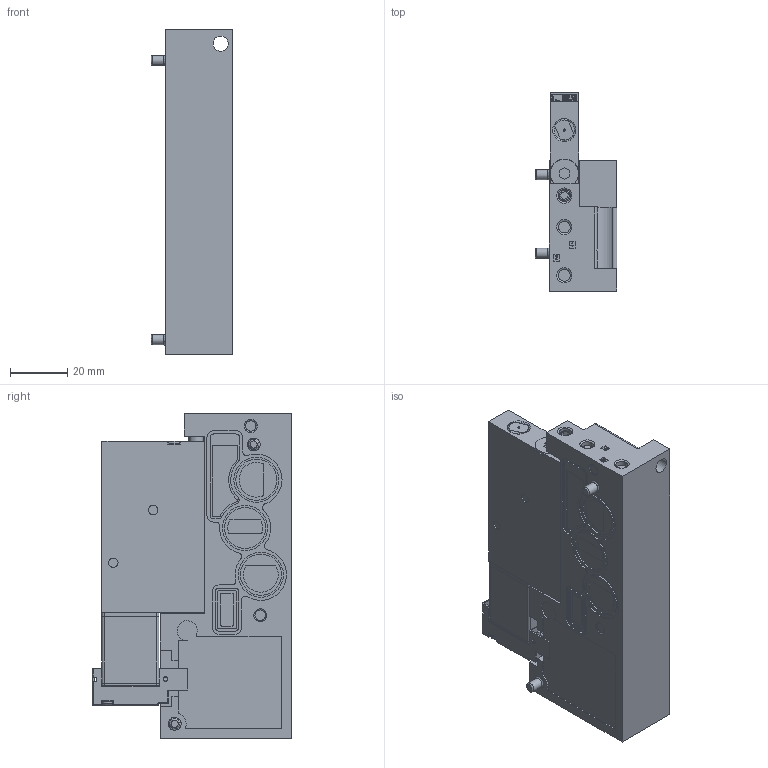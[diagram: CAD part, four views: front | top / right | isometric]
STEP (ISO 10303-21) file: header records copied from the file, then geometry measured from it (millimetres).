
FILE_DESCRIPTION (( 'STEP AP214' ), '1' );
FILE_NAME ('42 SGL END.STEP', '2019-09-16T18:13:34', ( 'user' ), ( '' ), 'SwSTEP 2.0', 'SolidWorks 2014', '' );
FILE_SCHEMA (( 'AUTOMOTIVE_DESIGN' ));
Length unit declared in the file: millimetre
Products named in the file (3): 42A-000-BL1(SC); 42A-AMA-000-GXXP-1DA(SC); 42 SGL END
Assembly tree (2 placements, depth 2):
  42 SGL END
    42A-AMA-000-GXXP-1DA(SC)
    42A-000-BL1(SC)
Bounding box: 28.7 x 69.85 x 114 mm (x, y, z)
Volume: 109701.4 mm3; surface area: 38822.7 mm2
Topology: 17 solids, 25 shells, 1981 faces, 5007 edges, 3208 vertices
Faces by surface type: plane 1260, cylinder 543, bspline 128, cone 50
Full cylindrical faces by diameter (mm): 0.74 x1, 0.75 x1, 0.95 x2, 1 x2, 1.43 x1, 1.5 x4, 1.52 x1, 1.65 x2, 1.7 x4, 1.75 x2, 1.83 x2, 2 x3, 2.1 x2, 2.18 x2, 2.3 x4, 2.6 x1, 2.62 x1, 2.95 x2, 3.064 x1, 3.5 x2, 3.57 x1, 3.6 x1, 3.68 x2, 3.8 x2, 3.97 x1, 4 x1, 4.09 x2, 4.15 x1, 4.31 x1, 5 x1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
Entity records: 84505 total; most frequent: CARTESIAN_POINT 15482, ORIENTED_EDGE 9658, DIRECTION 9497, EDGE_CURVE 4829, LINE 3463, VECTOR 3463, VERTEX_POINT 3184, AXIS2_PLACEMENT_3D 3017
